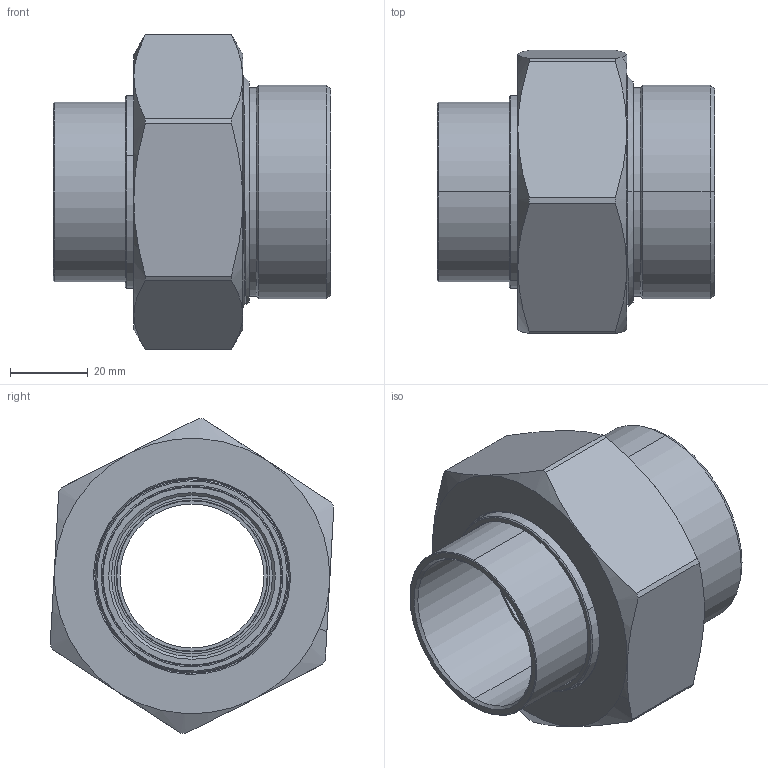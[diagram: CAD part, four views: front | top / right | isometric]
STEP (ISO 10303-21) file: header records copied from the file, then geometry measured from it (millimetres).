
FILE_DESCRIPTION(('Open CASCADE Model'),'2;1');
FILE_NAME('Open CASCADE Shape Model','2022-04-19T10:14:36',('Author'),( 'Open CASCADE'),'Open CASCADE STEP processor 7.3','Open CASCADE 7.3' ,'Unknown');
FILE_SCHEMA(('AUTOMOTIVE_DESIGN { 1 0 10303 214 1 1 1 1 }'));
Length unit declared in the file: millimetre
Products named in the file (6): Open CASCADE STEP translator 7.3 1; Open CASCADE STEP translator 7.3 1.1; Open CASCADE STEP translator 7.3 1.2; Open CASCADE STEP translator 7.3 1.3; Open CASCADE STEP translator 7.3 1.4; Open CASCADE STEP translator 7.3 1.5
Assembly tree (5 placements, depth 2):
  Open CASCADE STEP translator 7.3 1
    Open CASCADE STEP translator 7.3 1.1
    Open CASCADE STEP translator 7.3 1.2
    Open CASCADE STEP translator 7.3 1.3
    Open CASCADE STEP translator 7.3 1.4
    Open CASCADE STEP translator 7.3 1.5
Bounding box: 71.3 x 72.87 x 80.94 mm (x, y, z)
Volume: 105003.9 mm3; surface area: 56631.6 mm2
Topology: 5 solids, 5 shells, 169 faces, 409 edges, 257 vertices
Faces by surface type: cone 74, cylinder 60, plane 25, bspline 6, torus 4
Entity records: 31209 total; most frequent: CARTESIAN_POINT 23554, DIRECTION 1240, ORIENTED_EDGE 818, PCURVE 818, DEFINITIONAL_REPRESENTATION 818, LINE 583, VECTOR 583, EDGE_CURVE 409
